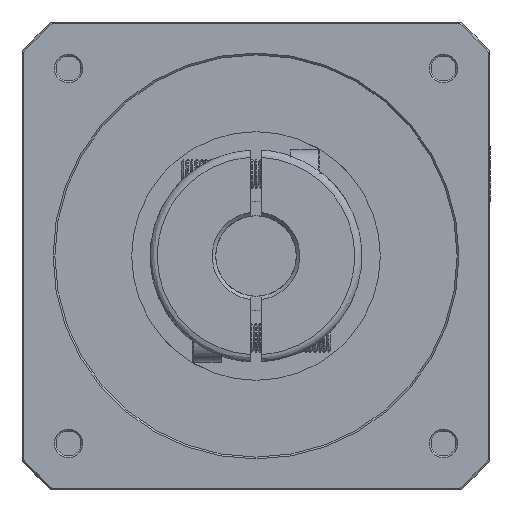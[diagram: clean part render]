
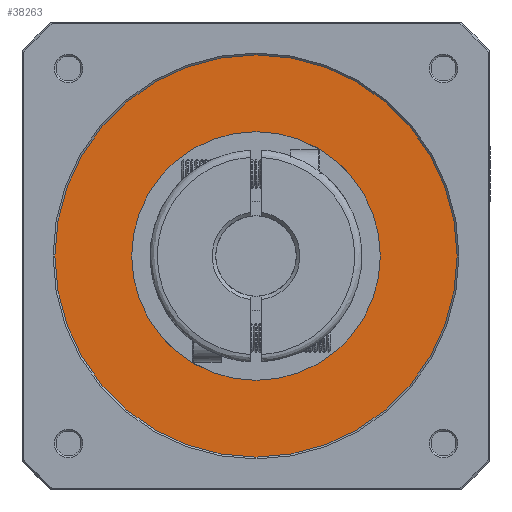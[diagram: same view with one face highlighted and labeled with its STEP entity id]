
A CAD part, front view. The second image highlights one B-rep face of the part: STEP entity #38263.
In plain terms, the highlighted planar face has unit normal (0, 1, 0).
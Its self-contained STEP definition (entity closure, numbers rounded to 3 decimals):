
#846 = CIRCLE ( 'NONE', #79493, 34. ) ;
#2901 = CARTESIAN_POINT ( 'NONE',  ( 0., -96.611, -34. ) ) ;
#3720 = AXIS2_PLACEMENT_3D ( 'NONE', #81750, #35853, #89376 ) ;
#4116 = DIRECTION ( 'NONE',  ( 0., 0., -1. ) ) ;
#4478 = AXIS2_PLACEMENT_3D ( 'NONE', #29412, #82937, #37054 ) ;
#5984 = EDGE_CURVE ( 'NONE', #34869, #46241, #74043, .T. ) ;
#6185 = DIRECTION ( 'NONE',  ( 0., 0., 1. ) ) ;
#11478 = FACE_OUTER_BOUND ( 'NONE', #76420, .T. ) ;
#20287 = VERTEX_POINT ( 'NONE', #25474 ) ;
#24061 = AXIS2_PLACEMENT_3D ( 'NONE', #85890, #40023, #93548 ) ;
#25474 = CARTESIAN_POINT ( 'NONE',  ( 0., -96.611, 34. ) ) ;
#26030 = ORIENTED_EDGE ( 'NONE', *, *, #33647, .T. ) ;
#29412 = CARTESIAN_POINT ( 'NONE',  ( 0., -96.611, 0. ) ) ;
#30240 = CIRCLE ( 'NONE', #38669, 55. ) ;
#32268 = ORIENTED_EDGE ( 'NONE', *, *, #49262, .T. ) ;
#33647 = EDGE_CURVE ( 'NONE', #46241, #34869, #30240, .T. ) ;
#34869 = VERTEX_POINT ( 'NONE', #60293 ) ;
#35853 = DIRECTION ( 'NONE',  ( 0., -1., 0. ) ) ;
#37054 = DIRECTION ( 'NONE',  ( 0., 0., -1. ) ) ;
#38263 = ADVANCED_FACE ( 'NONE', ( #70073, #11478 ), #50919, .F. ) ;
#38669 = AXIS2_PLACEMENT_3D ( 'NONE', #95641, #49838, #4116 ) ;
#40023 = DIRECTION ( 'NONE',  ( 0., -1., 0. ) ) ;
#42755 = EDGE_CURVE ( 'NONE', #79561, #20287, #846, .T. ) ;
#46083 = ORIENTED_EDGE ( 'NONE', *, *, #5984, .T. ) ;
#46241 = VERTEX_POINT ( 'NONE', #70942 ) ;
#49262 = EDGE_CURVE ( 'NONE', #20287, #79561, #98334, .T. ) ;
#49838 = DIRECTION ( 'NONE',  ( 0., 1., 0. ) ) ;
#50919 = PLANE ( 'NONE',  #3720 ) ;
#51947 = DIRECTION ( 'NONE',  ( 0., -1., 0. ) ) ;
#60293 = CARTESIAN_POINT ( 'NONE',  ( 0., -96.611, -55. ) ) ;
#62123 = EDGE_LOOP ( 'NONE', ( #32268, #79863 ) ) ;
#70073 = FACE_BOUND ( 'NONE', #62123, .T. ) ;
#70942 = CARTESIAN_POINT ( 'NONE',  ( 0., -96.611, 55. ) ) ;
#74043 = CIRCLE ( 'NONE', #4478, 55. ) ;
#76420 = EDGE_LOOP ( 'NONE', ( #46083, #26030 ) ) ;
#79493 = AXIS2_PLACEMENT_3D ( 'NONE', #97723, #51947, #6185 ) ;
#79561 = VERTEX_POINT ( 'NONE', #2901 ) ;
#79863 = ORIENTED_EDGE ( 'NONE', *, *, #42755, .T. ) ;
#81750 = CARTESIAN_POINT ( 'NONE',  ( -55.66, -96.611, -55.66 ) ) ;
#82937 = DIRECTION ( 'NONE',  ( 0., 1., 0. ) ) ;
#85890 = CARTESIAN_POINT ( 'NONE',  ( 0., -96.611, 0. ) ) ;
#89376 = DIRECTION ( 'NONE',  ( 1., 0., 0. ) ) ;
#93548 = DIRECTION ( 'NONE',  ( 0., 0., 1. ) ) ;
#95641 = CARTESIAN_POINT ( 'NONE',  ( 0., -96.611, 0. ) ) ;
#97723 = CARTESIAN_POINT ( 'NONE',  ( 0., -96.611, 0. ) ) ;
#98334 = CIRCLE ( 'NONE', #24061, 34. ) ;
